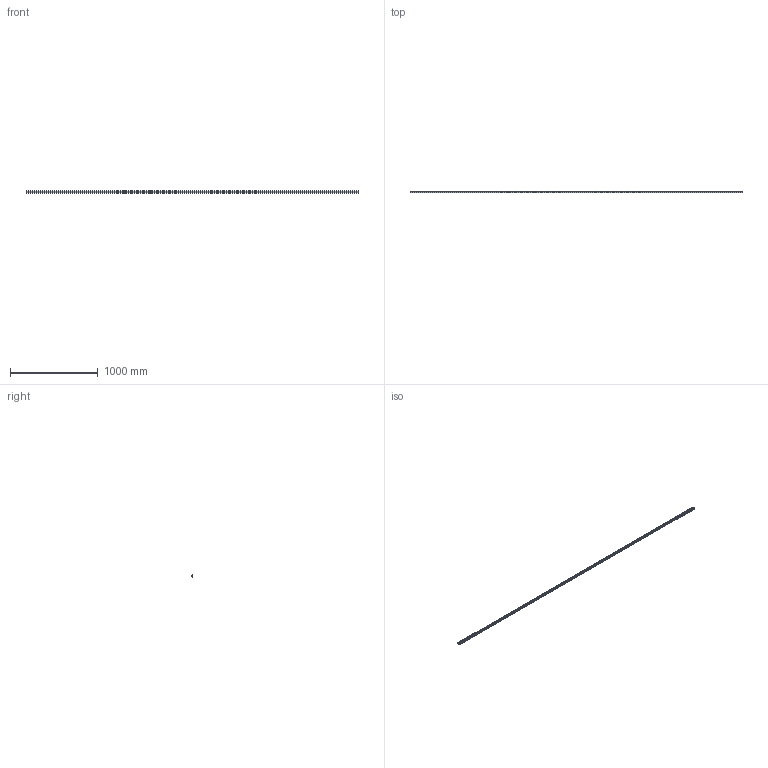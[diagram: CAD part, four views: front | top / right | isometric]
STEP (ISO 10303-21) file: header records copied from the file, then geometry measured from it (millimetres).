
FILE_DESCRIPTION (( 'STEP AP203' ), '1' );
FILE_NAME ('L1018.25R-3780.step', '2023-08-06T10:49:52', ( '' ), ( '' ), 'SwSTEP 2.0', 'SolidWorks 2019', '' );
FILE_SCHEMA (( 'CONFIG_CONTROL_DESIGN' ));
Length unit declared in the file: millimetre
Products named in the file (1): L1018.25R-3780
Bounding box: 3780 x 21.8 x 25 mm (x, y, z)
Volume: 1572057 mm3; surface area: 376199.2 mm2
Topology: 1 solids, 1 shells, 596 faces, 1341 edges, 747 vertices
Faces by surface type: cylinder 255, cone 252, plane 89
Entity records: 15740 total; most frequent: DIRECTION 3045, CARTESIAN_POINT 2559, ORIENTED_EDGE 2430, AXIS2_PLACEMENT_3D 1233, EDGE_CURVE 1215, VERTEX_POINT 747, EDGE_LOOP 722, CIRCLE 636
